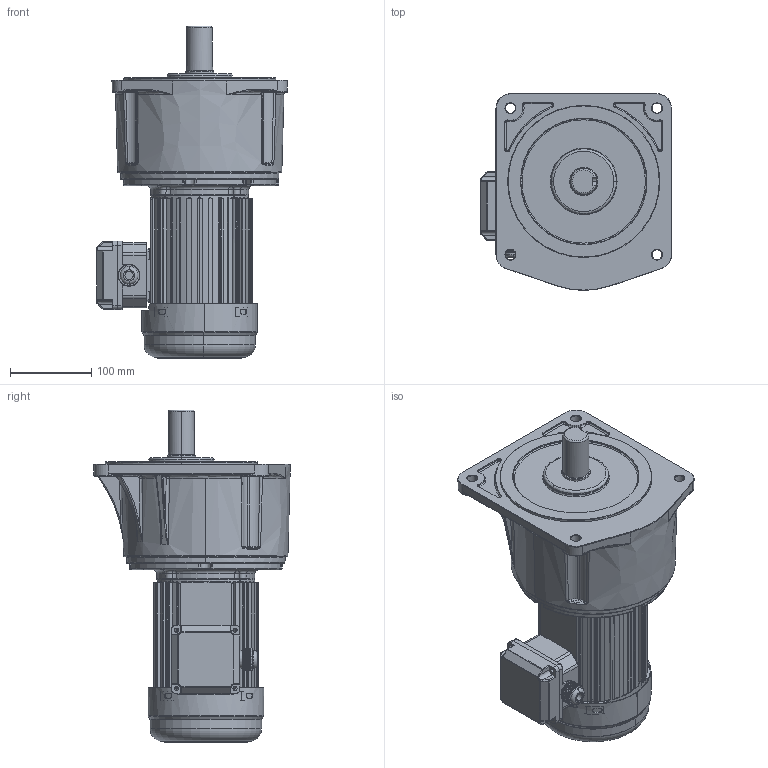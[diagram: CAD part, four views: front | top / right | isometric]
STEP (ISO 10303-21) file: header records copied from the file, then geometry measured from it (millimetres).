
FILE_DESCRIPTION (( 'STEP AP203' ), '1' );
FILE_NAME ('400W饜4#湍价陬蕾宒.STEP', '2020-04-17T05:47:23', ( '' ), ( '' ), 'SwSTEP 2.0', 'SolidWorks 2019', '' );
FILE_SCHEMA (( 'CONFIG_CONTROL_DESIGN' ));
Length unit declared in the file: millimetre
Products named in the file (7): 400W价陬瑞欶; 400W棠憤迖殤; 400W饜4#蕾宒; 諉芛; 湍价陬諉盄碟裔; 400W饜4#湍价陬蕾宒; 蜊輛綴諉盄碟釱3
Assembly tree (6 placements, depth 2):
  400W饜4#湍价陬蕾宒
    400W饜4#蕾宒
    400W棠憤迖殤
    400W价陬瑞欶
    蜊輛綴諉盄碟釱3
    諉芛
    湍价陬諉盄碟裔
Bounding box: 234.98 x 241.97 x 408.5 mm (x, y, z)
Volume: 5051002.6 mm3; surface area: 684500.5 mm2
Topology: 8 solids, 8 shells, 3577 faces, 9242 edges, 5705 vertices
Faces by surface type: plane 1110, cylinder 988, bspline 834, torus 375, cone 238, sphere 32
Entity records: 164790 total; most frequent: CARTESIAN_POINT 85340, ORIENTED_EDGE 18344, DIRECTION 13943, EDGE_CURVE 9172, VERTEX_POINT 5702, AXIS2_PLACEMENT_3D 5292, EDGE_LOOP 3884, ADVANCED_FACE 3576
